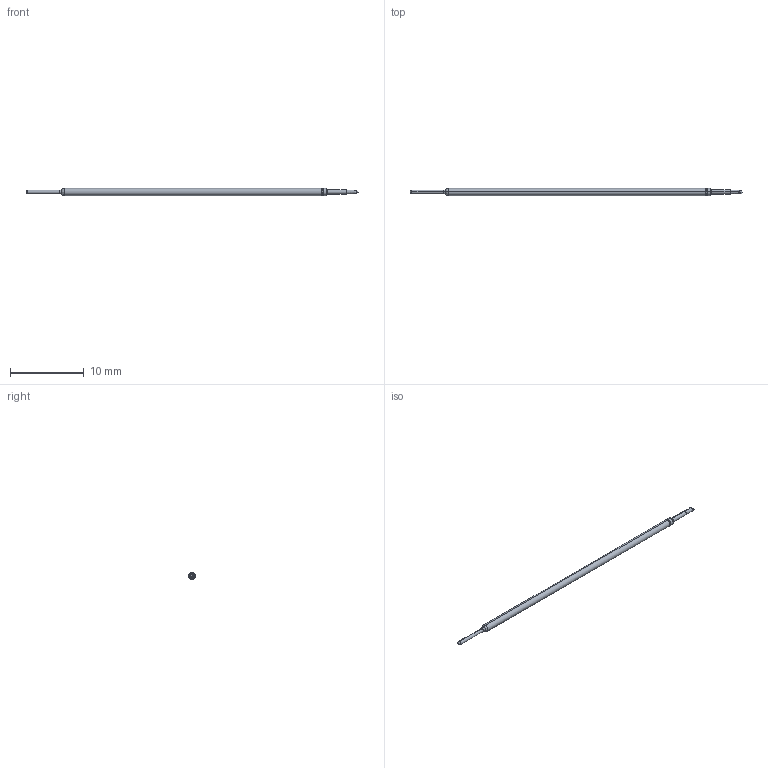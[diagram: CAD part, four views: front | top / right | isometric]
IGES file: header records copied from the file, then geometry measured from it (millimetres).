
Start section: SolidWorks IGES file using analytic representation for surfaces
Global section: file name: C:\Documents and Settings\mrumschlag\Desktop\changes\new\test\I15 RECD.IGS; native system: SolidWorks 2011; preprocessor: SolidWorks 2011; author: mrumschlag; date: 110630.142323; units: inch
Bounding box: 45.03 x 0.97 x 0.97 mm (x, y, z)
Surface area: 124.7 mm2 (no closed solid volume)
Topology: 0 solids, 0 shells, 35 faces, 200 edges, 198 vertices
Faces by surface type: revolution 22, bspline 13
